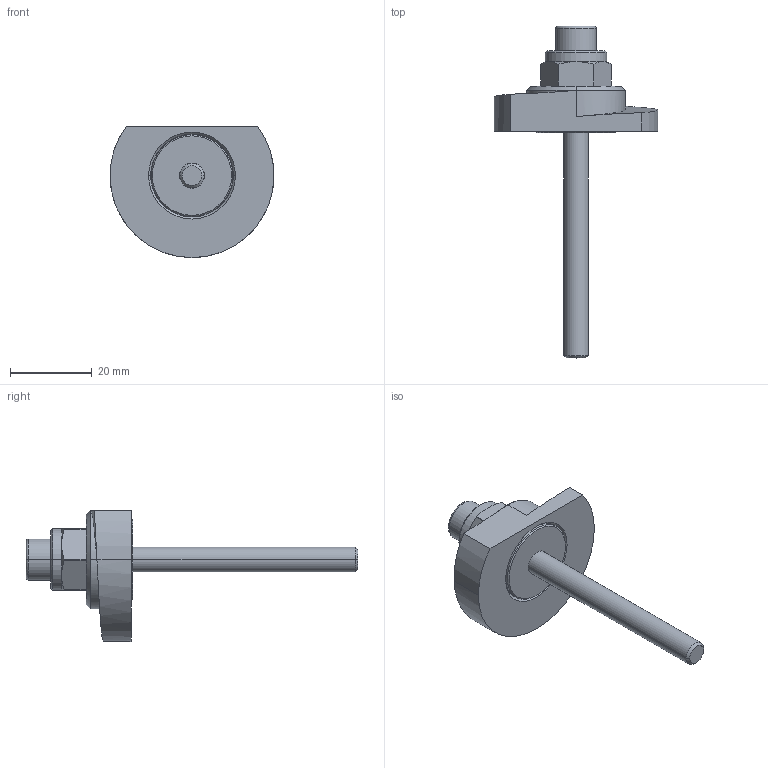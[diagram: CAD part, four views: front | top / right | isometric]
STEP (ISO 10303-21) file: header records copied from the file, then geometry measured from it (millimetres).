
FILE_DESCRIPTION (( 'STEP AP214' ), '1' );
FILE_NAME ('918.1-40-SKS-R-55.step', '2024-05-15T13:01:19', ( '' ), ( '' ), 'SwSTEP 2.0', 'SolidWorks 2022', '' );
FILE_SCHEMA (( 'AUTOMOTIVE_DESIGN' ));
Length unit declared in the file: millimetre
Products named in the file (1): 918.1-40-SKS-R-55
Bounding box: 40 x 81 x 32 mm (x, y, z)
Volume: 12505.1 mm3; surface area: 7245.2 mm2
Topology: 1 solids, 2 shells, 82 faces, 185 edges, 116 vertices
Faces by surface type: cylinder 30, plane 26, cone 22, torus 2, bspline 2
Entity records: 2641 total; most frequent: CARTESIAN_POINT 753, DIRECTION 407, ORIENTED_EDGE 370, EDGE_CURVE 185, AXIS2_PLACEMENT_3D 163, VERTEX_POINT 116, EDGE_LOOP 93, CIRCLE 82
